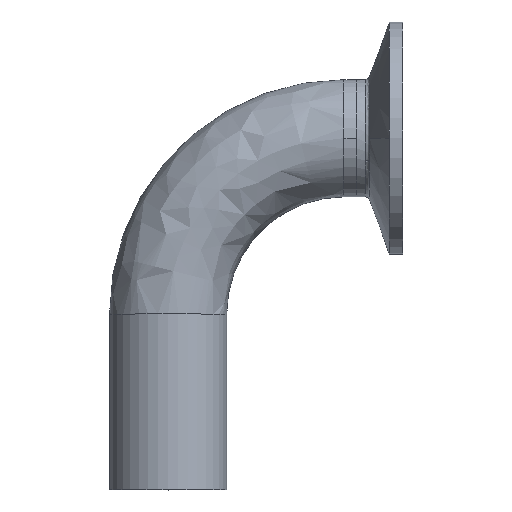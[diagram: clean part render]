
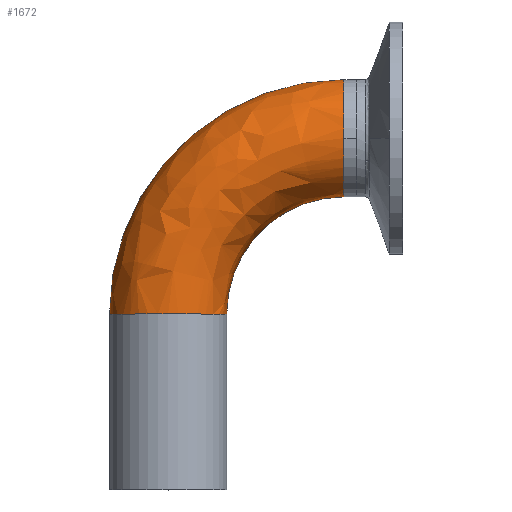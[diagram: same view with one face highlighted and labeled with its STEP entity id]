
A CAD part, top view. The second image highlights one B-rep face of the part: STEP entity #1672.
In plain terms, the highlighted free-form (B-spline) face has degree [3, 3] with [4, 4] control points.
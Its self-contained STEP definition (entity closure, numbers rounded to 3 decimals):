
#15 = CARTESIAN_POINT ( 'NONE',  ( 38.1, 76.2, 0. ) ) ;
#16 = EDGE_CURVE ( 'NONE', #739, #238, #650, .T. ) ;
#120 = DIRECTION ( 'NONE',  ( -1., 0., 0. ) ) ;
#130 = DIRECTION ( 'NONE',  ( 0., 0., -1. ) ) ;
#173 = EDGE_CURVE ( 'NONE', #777, #1683, #1519, .T. ) ;
#190 = CARTESIAN_POINT ( 'NONE',  ( 38.1, 38.1, 0. ) ) ;
#218 = ORIENTED_EDGE ( 'NONE', *, *, #16, .T. ) ;
#238 = VERTEX_POINT ( 'NONE', #1473 ) ;
#254 = FACE_OUTER_BOUND ( 'NONE', #1432, .T. ) ;
#294 = DIRECTION ( 'NONE',  ( -1., 0., 0. ) ) ;
#337 = EDGE_CURVE ( 'NONE', #1683, #739, #1074, .T. ) ;
#469 = AXIS2_PLACEMENT_3D ( 'NONE', #779, #773, #1711 ) ;
#507 = ORIENTED_EDGE ( 'NONE', *, *, #725, .T. ) ;
#616 = DIRECTION ( 'NONE',  ( 0., 1., 0. ) ) ;
#621 = AXIS2_PLACEMENT_3D ( 'NONE', #1126, #1144, #1152 ) ;
#650 = CIRCLE ( 'NONE', #1475, 12.7 ) ;
#725 = EDGE_CURVE ( 'NONE', #238, #1567, #1022, .T. ) ;
#739 = VERTEX_POINT ( 'NONE', #1160 ) ;
#773 = DIRECTION ( 'NONE',  ( 0., 0., -1. ) ) ;
#776 =( BOUNDED_SURFACE ( )  B_SPLINE_SURFACE ( 3, 3, ( 
 ( #1801, #1327, #1363, #1439 ),
 ( #1449, #1471, #1476, #1515 ),
 ( #1593, #1601, #1619, #1628 ),
 ( #1646, #1654, #1730, #1737 ) ),
 .UNSPECIFIED., .F., .F., .F. ) 
 B_SPLINE_SURFACE_WITH_KNOTS ( ( 4, 4 ),
 ( 4, 4 ),
 ( 0., 1. ),
 ( 0., 1. ),
 .UNSPECIFIED. ) 
 GEOMETRIC_REPRESENTATION_ITEM ( )  RATIONAL_B_SPLINE_SURFACE ( (
 ( 1., 0.805, 0.805, 1.),
 ( 0.333, 0.268, 0.268, 0.333),
 ( 0.333, 0.268, 0.268, 0.333),
 ( 1., 0.805, 0.805, 1.) ) ) 
 REPRESENTATION_ITEM ( '' )  SURFACE ( )  );
#777 = VERTEX_POINT ( 'NONE', #1175 ) ;
#779 = CARTESIAN_POINT ( 'NONE',  ( 38.1, 38.1, 0. ) ) ;
#790 = CARTESIAN_POINT ( 'NONE',  ( 38.1, 88.9, 0. ) ) ;
#875 = DIRECTION ( 'NONE',  ( -1., 0., 0. ) ) ;
#909 = DIRECTION ( 'NONE',  ( 0., 1., 0. ) ) ;
#971 = ORIENTED_EDGE ( 'NONE', *, *, #1125, .F. ) ;
#1022 = CIRCLE ( 'NONE', #621, 12.7 ) ;
#1055 = CIRCLE ( 'NONE', #1549, 50.8 ) ;
#1068 = ORIENTED_EDGE ( 'NONE', *, *, #337, .T. ) ;
#1074 = CIRCLE ( 'NONE', #469, 25.4 ) ;
#1125 = EDGE_CURVE ( 'NONE', #777, #1567, #1055, .T. ) ;
#1126 = CARTESIAN_POINT ( 'NONE',  ( 38.1, 76.2, 0. ) ) ;
#1144 = DIRECTION ( 'NONE',  ( -1., 0., 0. ) ) ;
#1152 = DIRECTION ( 'NONE',  ( 0., 1., 0. ) ) ;
#1160 = CARTESIAN_POINT ( 'NONE',  ( 38.1, 63.5, 0. ) ) ;
#1175 = CARTESIAN_POINT ( 'NONE',  ( -12.7, 38.1, 0. ) ) ;
#1182 = AXIS2_PLACEMENT_3D ( 'NONE', #1582, #909, #875 ) ;
#1327 = CARTESIAN_POINT ( 'NONE',  ( -12.7, 67.858, 0. ) ) ;
#1363 = CARTESIAN_POINT ( 'NONE',  ( 8.342, 88.9, 0. ) ) ;
#1386 = ORIENTED_EDGE ( 'NONE', *, *, #173, .T. ) ;
#1432 = EDGE_LOOP ( 'NONE', ( #1386, #1068, #218, #507, #971 ) ) ;
#1439 = CARTESIAN_POINT ( 'NONE',  ( 38.1, 88.9, 0. ) ) ;
#1449 = CARTESIAN_POINT ( 'NONE',  ( -12.7, 38.1, 25.4 ) ) ;
#1471 = CARTESIAN_POINT ( 'NONE',  ( -12.7, 67.858, 25.4 ) ) ;
#1473 = CARTESIAN_POINT ( 'NONE',  ( 38.1, 76.2, 12.7 ) ) ;
#1475 = AXIS2_PLACEMENT_3D ( 'NONE', #15, #294, #616 ) ;
#1476 = CARTESIAN_POINT ( 'NONE',  ( 8.342, 88.9, 25.4 ) ) ;
#1515 = CARTESIAN_POINT ( 'NONE',  ( 38.1, 88.9, 25.4 ) ) ;
#1519 = CIRCLE ( 'NONE', #1182, 12.7 ) ;
#1549 = AXIS2_PLACEMENT_3D ( 'NONE', #190, #130, #120 ) ;
#1567 = VERTEX_POINT ( 'NONE', #790 ) ;
#1582 = CARTESIAN_POINT ( 'NONE',  ( 0., 38.1, 0. ) ) ;
#1593 = CARTESIAN_POINT ( 'NONE',  ( 12.7, 38.1, 25.4 ) ) ;
#1601 = CARTESIAN_POINT ( 'NONE',  ( 12.7, 52.979, 25.4 ) ) ;
#1619 = CARTESIAN_POINT ( 'NONE',  ( 23.221, 63.5, 25.4 ) ) ;
#1628 = CARTESIAN_POINT ( 'NONE',  ( 38.1, 63.5, 25.4 ) ) ;
#1646 = CARTESIAN_POINT ( 'NONE',  ( 12.7, 38.1, 0. ) ) ;
#1654 = CARTESIAN_POINT ( 'NONE',  ( 12.7, 52.979, 0. ) ) ;
#1672 = ADVANCED_FACE ( 'NONE', ( #254 ), #776, .T. ) ;
#1683 = VERTEX_POINT ( 'NONE', #1793 ) ;
#1711 = DIRECTION ( 'NONE',  ( -1., 0., 0. ) ) ;
#1730 = CARTESIAN_POINT ( 'NONE',  ( 23.221, 63.5, 0. ) ) ;
#1737 = CARTESIAN_POINT ( 'NONE',  ( 38.1, 63.5, 0. ) ) ;
#1793 = CARTESIAN_POINT ( 'NONE',  ( 12.7, 38.1, 0. ) ) ;
#1801 = CARTESIAN_POINT ( 'NONE',  ( -12.7, 38.1, 0. ) ) ;
